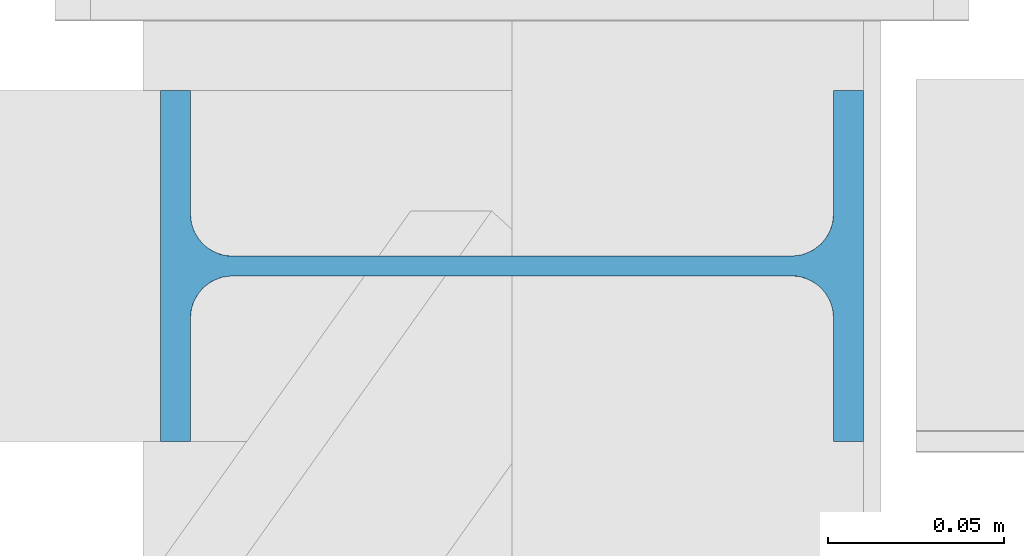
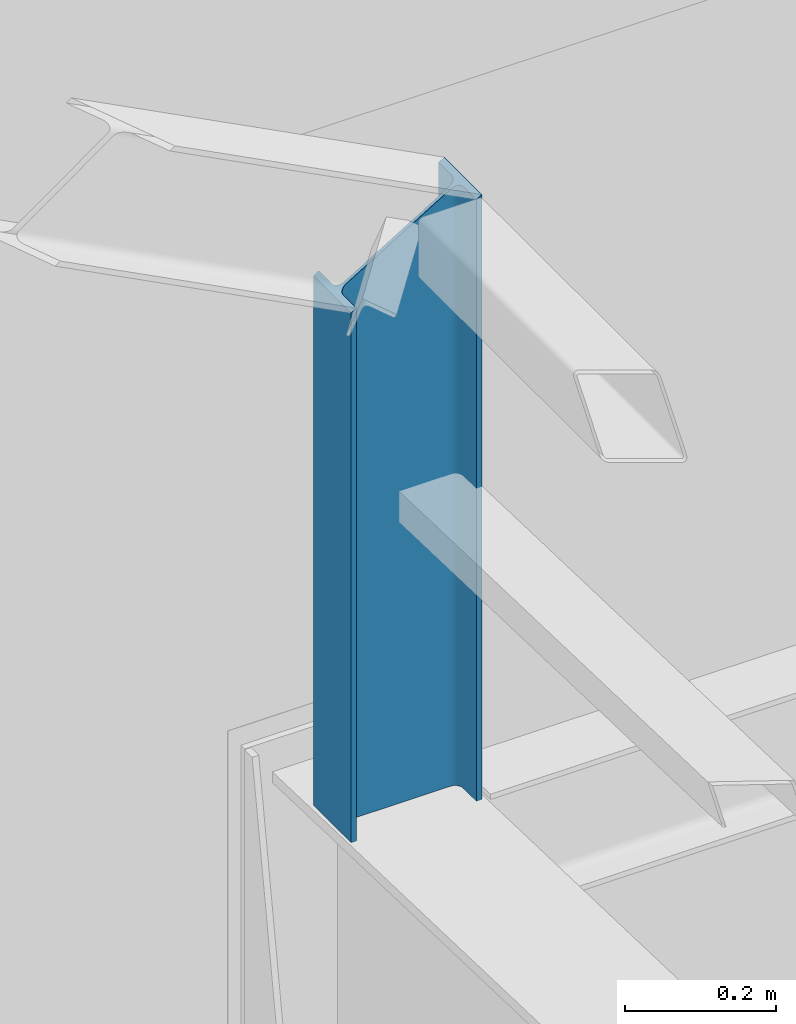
# One storey, part 55 of 123: 1 discrete accessory, 1 element without a shape of its own.
"""IFC2X3 building model written with IfcOpenShell, lengths in millimetres."""

from ifc_helpers import new_model, si_unit, frame, origin_with_axes, origin_2d_with_axis, place, context, subcontext, project, spatial, i_section, extrude, clip, halfspace, material, type_object, element, aggregate, save


model = new_model("IFC2X3")

# Units and contexts
model_context = context("Model", 3, precision=1e-05, world=origin_with_axes())
body_context = subcontext(model_context, "Body", "Model", "MODEL_VIEW")
ifc_project = project(units=[si_unit("LENGTHUNIT", "METRE", prefix="MILLI"), si_unit("AREAUNIT", "SQUARE_METRE"), si_unit("VOLUMEUNIT", "CUBIC_METRE"), si_unit("MASSUNIT", "GRAM", prefix="KILO"), si_unit("TIMEUNIT", "SECOND"), si_unit("PLANEANGLEUNIT", "RADIAN"), si_unit("SOLIDANGLEUNIT", "STERADIAN"), si_unit("THERMODYNAMICTEMPERATUREUNIT", "DEGREE_CELSIUS"), si_unit("LUMINOUSINTENSITYUNIT", "LUMEN")], contexts=[model_context])

# Site, building, storey
site_placement = place(None, origin_with_axes())
site = spatial("IfcSite", under=ifc_project, at=site_placement, Name="Undefined", CompositionType="ELEMENT")
building_placement = place(site_placement, origin_with_axes())
building = spatial("IfcBuilding", under=site, at=building_placement, Name="Undefined", CompositionType="ELEMENT")
storey_placement = place(building_placement, origin_with_axes())
storey = spatial("IfcBuildingStorey", under=building, at=storey_placement, Name="Undefined", CompositionType="ELEMENT", Elevation=0.0)

# Assembly, discrete accessory
assembly_placement = place(storey_placement, origin_with_axes())
assembly = element("IfcElementAssembly", 1, at=assembly_placement, inside=storey, Name="Steel Assembly", AssemblyPlace="NOTDEFINED", PredefinedType="RIGID_FRAME")
ifc_material = material(Name="STEEL/S275-E28")
discrete_accessory_type = type_object("IfcDiscreteAccessoryType", Name="TRAVERSE SHED")
discrete_accessory_placement = place(assembly_placement, frame((28880.0, 15200.0, 7572.32075715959), z_axis=(0.0, 0.0, 1.0), x_axis=(-1.0, 0.0, 0.0)))
discrete_accessory = element("IfcDiscreteAccessory", 2, at=discrete_accessory_placement, type_object=discrete_accessory_type, material=ifc_material, Name="TRAVERSE SHED", ObjectType="IPE200", context=body_context, shape_type="Clipping", body=[
    clip(extrude(i_section(OverallWidth=100.0, OverallDepth=200.0, WebThickness=5.599999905, FlangeThickness=8.5, FilletRadius=12.0, at=origin_2d_with_axis()), frame((0.0, 0.0, 978.287335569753), z_axis=(0.0, 0.0, -1.0), x_axis=(0.0, 1.0, 0.0)), (0.0, 0.0, 1.0), 978.3), halfspace(frame((-100.000000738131, 11400.0, 977.679244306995), z_axis=(0.519570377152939, 0.0, 0.854427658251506), x_axis=(0.0, 1.0, 0.0)), False)),
])
aggregate(assembly, [discrete_accessory])

save(model, "model.ifc")
